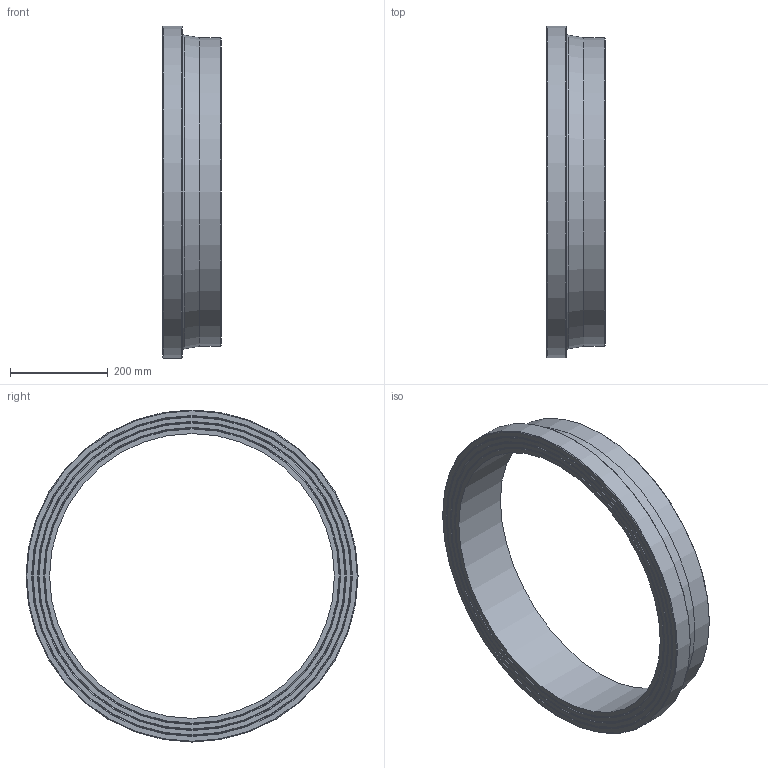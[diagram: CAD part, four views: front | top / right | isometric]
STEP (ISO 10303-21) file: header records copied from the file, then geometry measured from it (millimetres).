
FILE_DESCRIPTION(/* description */ ('Unknown'),/* implementation_level */ '2;1');
FILE_NAME(/* name */ 'CCP630A',/* time_stamp */ '2022-04-05T10:51:10+02:00',/* author */ ('Unknown'),/* organization */ ('Unknown'),/* preprocessor_version */ 'ST-DEVELOPER v18.1',/* originating_system */ 'Solid Edge',/* authorisation */ 'Unknown');
FILE_SCHEMA (('AUTOMOTIVE_DESIGN {1 0 10303 214 3 1 1}'));
Length unit declared in the file: millimetre
Products named in the file (1): CCP630A
Bounding box: 120 x 678 x 678 mm (x, y, z)
Volume: 7682212.5 mm3; surface area: 637048.4 mm2
Topology: 1 solids, 1 shells, 20 faces, 35 edges, 21 vertices
Faces by surface type: cone 10, plane 6, cylinder 3, torus 1
Full cylindrical faces by diameter (mm): 581.8 x1, 630 x1, 678 x1
Entity records: 438 total; most frequent: DIRECTION 82, CARTESIAN_POINT 61, AXIS2_PLACEMENT_3D 41, ORIENTED_EDGE 40, EDGE_LOOP 40, FACE_BOUND 40, EDGE_CURVE 20, VERTEX_POINT 20
